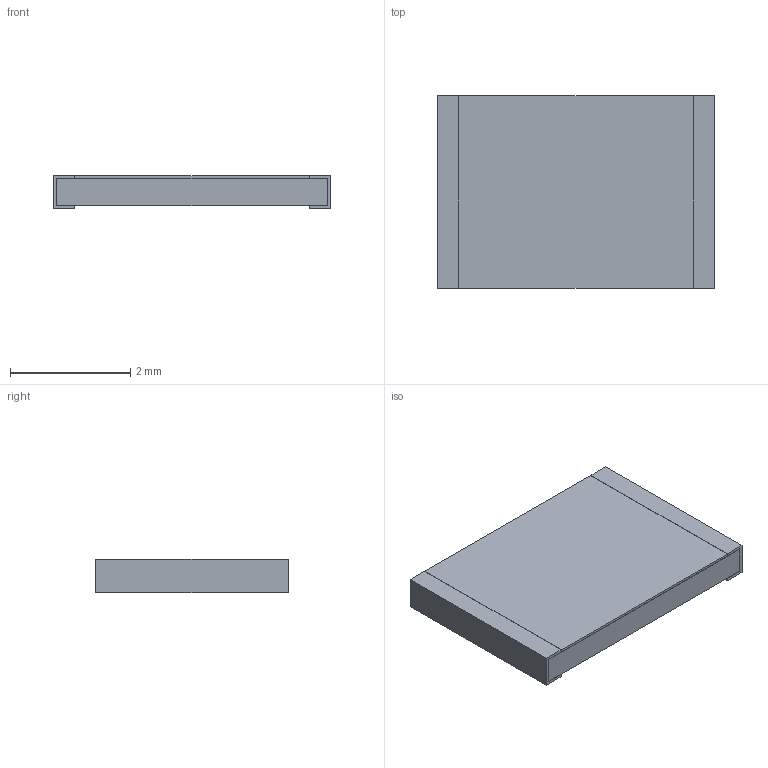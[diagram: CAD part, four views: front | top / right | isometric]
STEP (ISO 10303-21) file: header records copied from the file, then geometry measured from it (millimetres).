
FILE_DESCRIPTION(('STEP AP203'), '1');
FILE_NAME('Ð1-8 1812 ', '', ('UNSPECIFIED'), ('UNSPECIFIED'), 'ASCON STEP Converter 1.6', 'ASCON Math Kernel', '');
FILE_SCHEMA(('CONFIG_CONTROL_DESIGN'));
Length unit declared in the file: millimetre
Bounding box: 4.6 x 3.2 x 0.55 mm (x, y, z)
Volume: 7.4 mm3; surface area: 77 mm2
Topology: 4 solids, 4 shells, 48 faces, 120 edges, 80 vertices
Faces by surface type: plane 42, cylinder 6
Entity records: 1870 total; most frequent: CARTESIAN_POINT 249, ORIENTED_EDGE 240, DIRECTION 230, EDGE_CURVE 120, LINE 108, VECTOR 108, VERTEX_POINT 80, AXIS2_PLACEMENT_3D 61
